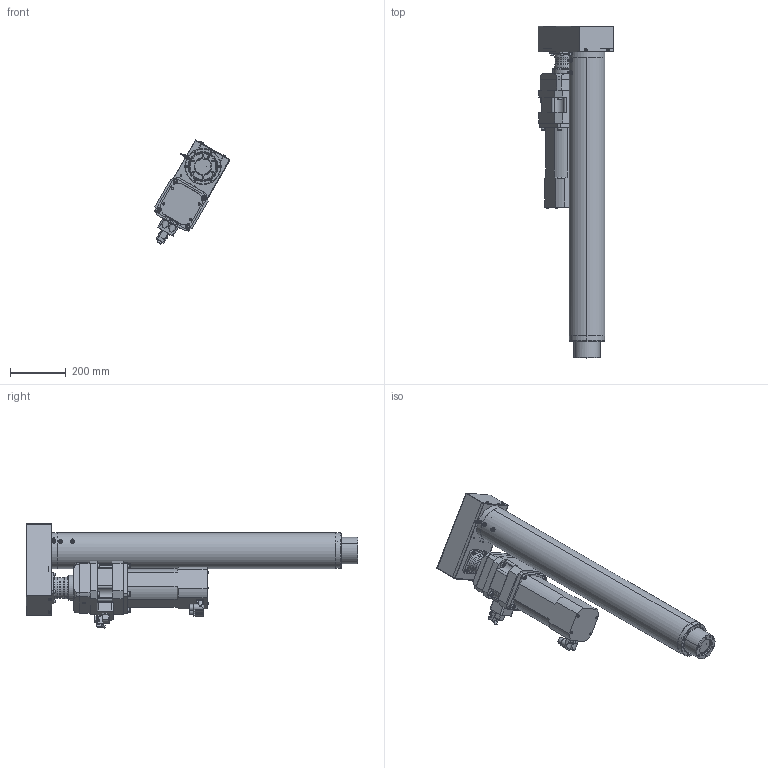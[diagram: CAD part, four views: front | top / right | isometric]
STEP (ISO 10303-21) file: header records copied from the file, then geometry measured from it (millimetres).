
FILE_DESCRIPTION (( 'STEP AP214' ), '1' );
FILE_NAME ('RLWPK030D-075-025SG0.STEP', '2023-04-05T14:19:51', ( '' ), ( '' ), 'SwSTEP 2.0', 'SolidWorks 2021', '' );
FILE_SCHEMA (( 'AUTOMOTIVE_DESIGN' ));
Length unit declared in the file: millimetre
Products named in the file (1): RLWPK030D-075-025SG0
Bounding box: 272.28 x 1192.5 x 374.41 mm (x, y, z)
Volume: 19257083.8 mm3; surface area: 2147649.2 mm2
Topology: 35 solids, 35 shells, 1465 faces, 3476 edges, 2101 vertices
Faces by surface type: cylinder 582, plane 557, cone 230, torus 88, bspline 6, sphere 2
Entity records: 59480 total; most frequent: CARTESIAN_POINT 8747, DIRECTION 7637, ORIENTED_EDGE 6672, EDGE_CURVE 3336, AXIS2_PLACEMENT_3D 2959, VERTEX_POINT 2101, EDGE_LOOP 1733, LINE 1719
